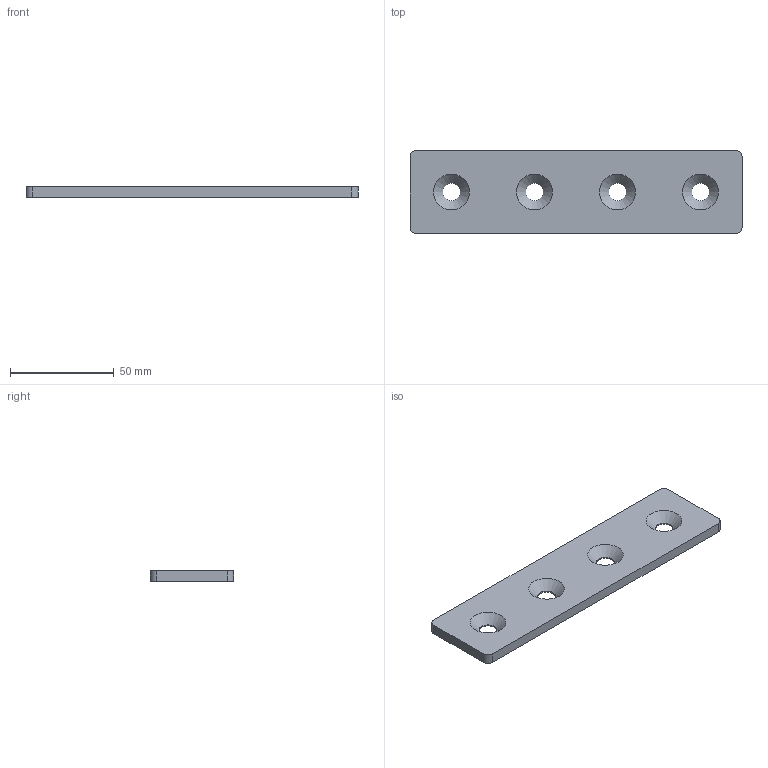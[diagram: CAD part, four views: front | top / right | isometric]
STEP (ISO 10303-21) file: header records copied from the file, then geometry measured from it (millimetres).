
FILE_DESCRIPTION(/* description */ ('STEP AP203'),/* implementation_level */ '2;1');
FILE_NAME(/* name */ '093V40160Shigh',/* time_stamp */ '2026-07-15T16:35:27+02:00',/* author */ ('License CC BY-ND 4.0'),/* organization */ ('CADENAS'),/* preprocessor_version */ 'ST-DEVELOPER v20',/* originating_system */ 'PARTsolutions',/* authorisation */ ' ');
FILE_SCHEMA (('CONFIG_CONTROL_DESIGN'));
Length unit declared in the file: millimetre
Products named in the file (1): 093V40160Shigh
Bounding box: 160 x 40 x 5 mm (x, y, z)
Volume: 29435.7 mm3; surface area: 14664.4 mm2
Topology: 1 solids, 1 shells, 18 faces, 44 edges, 28 vertices
Faces by surface type: cylinder 8, plane 6, cone 4
Full cylindrical faces by diameter (mm): 8.5 x4
Entity records: 533 total; most frequent: DIRECTION 94, CARTESIAN_POINT 83, ORIENTED_EDGE 72, AXIS2_PLACEMENT_3D 39, EDGE_CURVE 36, EDGE_LOOP 34, FACE_BOUND 34, VERTEX_POINT 28
